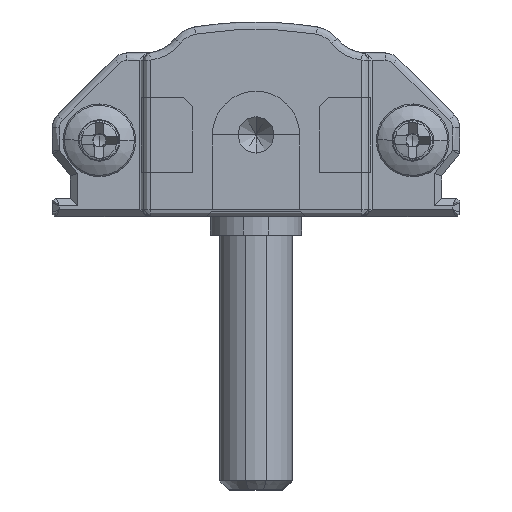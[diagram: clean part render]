
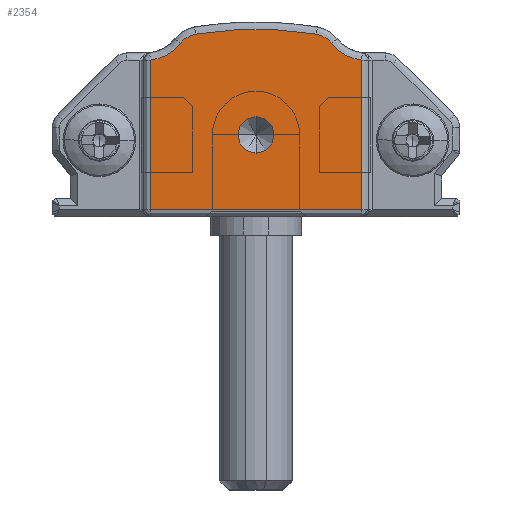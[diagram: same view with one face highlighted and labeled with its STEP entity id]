
A CAD part, front view. The second image highlights one B-rep face of the part: STEP entity #2354.
In plain terms, the highlighted planar face has unit normal (0, -1, 0).
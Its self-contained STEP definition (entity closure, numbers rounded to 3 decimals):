
#339 = DIRECTION ( 'NONE',  ( 0., 0., -1. ) ) ;
#359 = VECTOR ( 'NONE', #21134, 1000. ) ;
#386 = CIRCLE ( 'NONE', #30983, 20.676 ) ;
#1387 = VERTEX_POINT ( 'NONE', #25826 ) ;
#1743 = DIRECTION ( 'NONE',  ( 0., 1., 0. ) ) ;
#1763 = CARTESIAN_POINT ( 'NONE',  ( 14.508, -15., 10.034 ) ) ;
#2073 = VERTEX_POINT ( 'NONE', #26499 ) ;
#2213 = DIRECTION ( 'NONE',  ( 0., -1., 0. ) ) ;
#2354 = ADVANCED_FACE ( 'NONE', ( #31516, #5798 ), #15534, .T. ) ;
#2806 = DIRECTION ( 'NONE',  ( 0., 0., -1. ) ) ;
#4600 = AXIS2_PLACEMENT_3D ( 'NONE', #15576, #8073, #2806 ) ;
#5362 = CARTESIAN_POINT ( 'NONE',  ( 17.238, -15., 11. ) ) ;
#5798 = FACE_BOUND ( 'NONE', #11952, .T. ) ;
#5838 = ORIENTED_EDGE ( 'NONE', *, *, #10247, .F. ) ;
#6547 = EDGE_LOOP ( 'NONE', ( #24885, #21238, #27850, #26285, #22416, #13906, #18584, #15267 ) ) ;
#6617 = LINE ( 'NONE', #16500, #30593 ) ;
#7776 = CARTESIAN_POINT ( 'NONE',  ( 8.1, -15., 8.75 ) ) ;
#8040 = CARTESIAN_POINT ( 'NONE',  ( 15.332, -15., 9.541 ) ) ;
#8073 = DIRECTION ( 'NONE',  ( 0., -1., 0. ) ) ;
#8477 = VERTEX_POINT ( 'NONE', #24732 ) ;
#8545 = CARTESIAN_POINT ( 'NONE',  ( 5.4, -15., 0.4 ) ) ;
#8651 = VERTEX_POINT ( 'NONE', #16455 ) ;
#9487 = CARTESIAN_POINT ( 'NONE',  ( 11.2, -15., 4.5 ) ) ;
#9957 = VERTEX_POINT ( 'NONE', #1763 ) ;
#10071 = CIRCLE ( 'NONE', #15944, 2.4 ) ;
#10107 = EDGE_CURVE ( 'NONE', #8477, #8651, #6617, .T. ) ;
#10247 = EDGE_CURVE ( 'NONE', #1387, #21835, #17168, .T. ) ;
#10458 = CARTESIAN_POINT ( 'NONE',  ( 11.2, -15., -10.376 ) ) ;
#10465 = DIRECTION ( 'NONE',  ( 0., -1., 0. ) ) ;
#10544 = DIRECTION ( 'NONE',  ( 0., 0., -1. ) ) ;
#10546 = LINE ( 'NONE', #8545, #359 ) ;
#10913 = CARTESIAN_POINT ( 'NONE',  ( 7.068, -15., 9.541 ) ) ;
#11357 = CARTESIAN_POINT ( 'NONE',  ( 5.162, -15., 11. ) ) ;
#11952 = EDGE_LOOP ( 'NONE', ( #20450, #5838 ) ) ;
#13906 = ORIENTED_EDGE ( 'NONE', *, *, #32013, .T. ) ;
#14172 = CIRCLE ( 'NONE', #25478, 1. ) ;
#14662 = LINE ( 'NONE', #22769, #25792 ) ;
#14929 = VERTEX_POINT ( 'NONE', #31958 ) ;
#14967 = DIRECTION ( 'NONE',  ( 0., 0., -1. ) ) ;
#15267 = ORIENTED_EDGE ( 'NONE', *, *, #30423, .T. ) ;
#15534 = PLANE ( 'NONE',  #27154 ) ;
#15576 = CARTESIAN_POINT ( 'NONE',  ( 14.3, -15., 8.75 ) ) ;
#15673 = CIRCLE ( 'NONE', #21102, 2.4 ) ;
#15869 = DIRECTION ( 'NONE',  ( 0., -1., 0. ) ) ;
#15944 = AXIS2_PLACEMENT_3D ( 'NONE', #5362, #23222, #31276 ) ;
#16323 = CARTESIAN_POINT ( 'NONE',  ( 11.2, -15., 3.5 ) ) ;
#16455 = CARTESIAN_POINT ( 'NONE',  ( 17., -15., 8.612 ) ) ;
#16500 = CARTESIAN_POINT ( 'NONE',  ( 17., -15., 8.612 ) ) ;
#17168 = CIRCLE ( 'NONE', #21507, 1. ) ;
#17190 = DIRECTION ( 'NONE',  ( 1., 0., 0. ) ) ;
#17664 = DIRECTION ( 'NONE',  ( 0., -1., 0. ) ) ;
#18584 = ORIENTED_EDGE ( 'NONE', *, *, #22652, .T. ) ;
#19152 = CIRCLE ( 'NONE', #4600, 1.3 ) ;
#20372 = CARTESIAN_POINT ( 'NONE',  ( 5.4, -15., 8.612 ) ) ;
#20450 = ORIENTED_EDGE ( 'NONE', *, *, #27872, .F. ) ;
#20708 = DIRECTION ( 'NONE',  ( 0., -1., 0. ) ) ;
#21102 = AXIS2_PLACEMENT_3D ( 'NONE', #11357, #1743, #21609 ) ;
#21134 = DIRECTION ( 'NONE',  ( 0., 0., -1. ) ) ;
#21184 = VERTEX_POINT ( 'NONE', #20372 ) ;
#21238 = ORIENTED_EDGE ( 'NONE', *, *, #22987, .T. ) ;
#21428 = DIRECTION ( 'NONE',  ( 0., 0., 1. ) ) ;
#21507 = AXIS2_PLACEMENT_3D ( 'NONE', #9487, #2213, #14967 ) ;
#21609 = DIRECTION ( 'NONE',  ( 0., 0., -1. ) ) ;
#21835 = VERTEX_POINT ( 'NONE', #16323 ) ;
#22123 = AXIS2_PLACEMENT_3D ( 'NONE', #7776, #17664, #339 ) ;
#22342 = EDGE_CURVE ( 'NONE', #23692, #9957, #19152, .T. ) ;
#22416 = ORIENTED_EDGE ( 'NONE', *, *, #26043, .T. ) ;
#22652 = EDGE_CURVE ( 'NONE', #21184, #2073, #10546, .T. ) ;
#22769 = CARTESIAN_POINT ( 'NONE',  ( 17., -15., 0.4 ) ) ;
#22987 = EDGE_CURVE ( 'NONE', #8651, #23692, #10071, .T. ) ;
#22998 = EDGE_CURVE ( 'NONE', #9957, #14929, #386, .T. ) ;
#23069 = CARTESIAN_POINT ( 'NONE',  ( 11.2, -15., 4.5 ) ) ;
#23222 = DIRECTION ( 'NONE',  ( 0., 1., 0. ) ) ;
#23556 = DIRECTION ( 'NONE',  ( 0., 0., -1. ) ) ;
#23629 = CARTESIAN_POINT ( 'NONE',  ( 22.15, -15., 3.606 ) ) ;
#23692 = VERTEX_POINT ( 'NONE', #8040 ) ;
#24732 = CARTESIAN_POINT ( 'NONE',  ( 17., -15., 0.4 ) ) ;
#24885 = ORIENTED_EDGE ( 'NONE', *, *, #10107, .T. ) ;
#25478 = AXIS2_PLACEMENT_3D ( 'NONE', #23069, #10465, #23556 ) ;
#25792 = VECTOR ( 'NONE', #17190, 1000. ) ;
#25826 = CARTESIAN_POINT ( 'NONE',  ( 11.2, -15., 5.5 ) ) ;
#26043 = EDGE_CURVE ( 'NONE', #14929, #29434, #26394, .T. ) ;
#26285 = ORIENTED_EDGE ( 'NONE', *, *, #22998, .T. ) ;
#26394 = CIRCLE ( 'NONE', #22123, 1.3 ) ;
#26499 = CARTESIAN_POINT ( 'NONE',  ( 5.4, -15., 0.4 ) ) ;
#27154 = AXIS2_PLACEMENT_3D ( 'NONE', #23629, #15869, #10544 ) ;
#27850 = ORIENTED_EDGE ( 'NONE', *, *, #22342, .T. ) ;
#27872 = EDGE_CURVE ( 'NONE', #21835, #1387, #14172, .T. ) ;
#29434 = VERTEX_POINT ( 'NONE', #10913 ) ;
#30423 = EDGE_CURVE ( 'NONE', #2073, #8477, #14662, .T. ) ;
#30593 = VECTOR ( 'NONE', #21428, 1000. ) ;
#30934 = DIRECTION ( 'NONE',  ( 0., 0., -1. ) ) ;
#30983 = AXIS2_PLACEMENT_3D ( 'NONE', #10458, #20708, #30934 ) ;
#31276 = DIRECTION ( 'NONE',  ( 0., 0., -1. ) ) ;
#31516 = FACE_OUTER_BOUND ( 'NONE', #6547, .T. ) ;
#31958 = CARTESIAN_POINT ( 'NONE',  ( 7.892, -15., 10.034 ) ) ;
#32013 = EDGE_CURVE ( 'NONE', #29434, #21184, #15673, .T. ) ;
